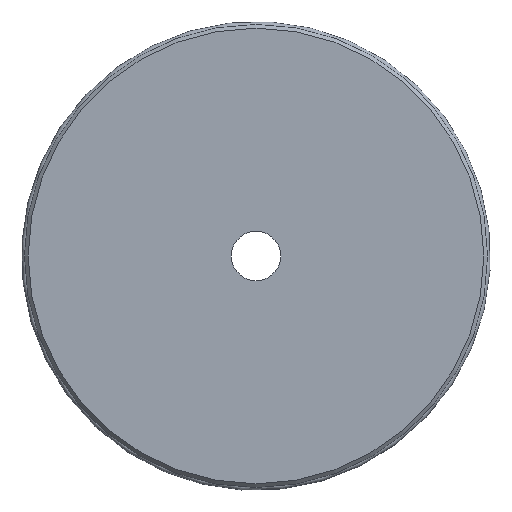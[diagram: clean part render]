
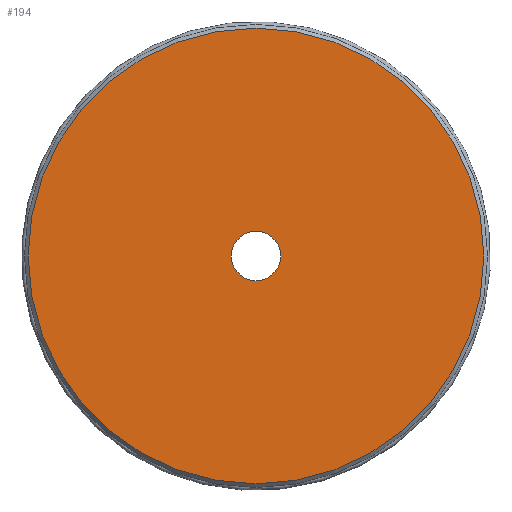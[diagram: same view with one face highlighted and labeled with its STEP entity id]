
A CAD part, front view. The second image highlights one B-rep face of the part: STEP entity #194.
In plain terms, the highlighted planar face has unit normal (0, -1, 0).
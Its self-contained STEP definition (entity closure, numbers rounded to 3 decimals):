
#16=FACE_BOUND('',#42,.T.);
#20=PLANE('',#231);
#30=FACE_OUTER_BOUND('',#41,.T.);
#41=EDGE_LOOP('',(#139));
#42=EDGE_LOOP('',(#140));
#66=CIRCLE('',#225,31.);
#71=CIRCLE('',#232,3.375);
#85=VERTEX_POINT('',#324);
#90=VERTEX_POINT('',#338);
#103=EDGE_CURVE('',#85,#85,#66,.T.);
#110=EDGE_CURVE('',#90,#90,#71,.T.);
#139=ORIENTED_EDGE('',*,*,#103,.F.);
#140=ORIENTED_EDGE('',*,*,#110,.T.);
#194=ADVANCED_FACE('',(#30,#16),#20,.T.);
#225=AXIS2_PLACEMENT_3D('',#325,#258,#259);
#231=AXIS2_PLACEMENT_3D('',#337,#272,#273);
#232=AXIS2_PLACEMENT_3D('',#339,#274,#275);
#258=DIRECTION('center_axis',(0.,1.,0.));
#259=DIRECTION('ref_axis',(-1.,0.,0.));
#272=DIRECTION('center_axis',(0.,-1.,0.));
#273=DIRECTION('ref_axis',(0.,0.,-1.));
#274=DIRECTION('center_axis',(0.,1.,0.));
#275=DIRECTION('ref_axis',(1.,0.,0.));
#324=CARTESIAN_POINT('',(26.366,-3.418,-0.004));
#325=CARTESIAN_POINT('Origin',(-4.634,-3.418,-0.004));
#337=CARTESIAN_POINT('Origin',(-4.634,-3.418,-0.004));
#338=CARTESIAN_POINT('',(-8.009,-3.418,-0.004));
#339=CARTESIAN_POINT('Origin',(-4.634,-3.418,-0.004));
